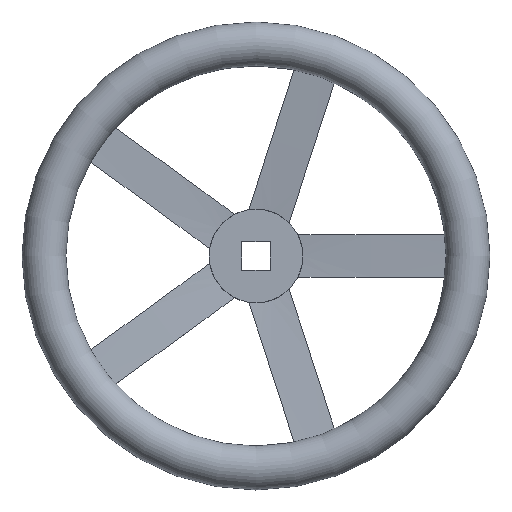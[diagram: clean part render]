
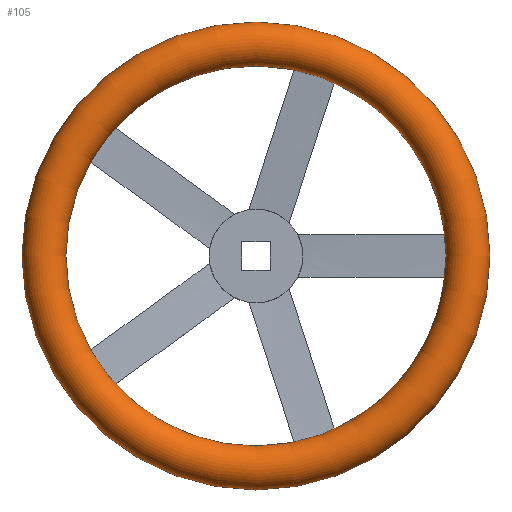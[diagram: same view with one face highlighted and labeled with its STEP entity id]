
A CAD part, top view. The second image highlights one B-rep face of the part: STEP entity #105.
In plain terms, the highlighted toroidal (fillet/blend) face has major radius 145 mm and minor radius 15 mm.
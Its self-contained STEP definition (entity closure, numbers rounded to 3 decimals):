
#105 = ADVANCED_FACE( '', ( #182, #183 ), #184, .T. );
#182 = FACE_OUTER_BOUND( '', #268, .T. );
#183 = FACE_OUTER_BOUND( '', #269, .T. );
#184 = TOROIDAL_SURFACE( '', #270, 145., 15. );
#268 = EDGE_LOOP( '', ( #535 ) );
#269 = EDGE_LOOP( '', ( #536 ) );
#270 = AXIS2_PLACEMENT_3D( '', #537, #538, #539 );
#535 = ORIENTED_EDGE( '', *, *, #642, .T. );
#536 = ORIENTED_EDGE( '', *, *, #641, .F. );
#537 = CARTESIAN_POINT( '', ( 0., 0., 35. ) );
#538 = DIRECTION( '', ( 0., 0., 1. ) );
#539 = DIRECTION( '', ( 1., 0., 0. ) );
#641 = EDGE_CURVE( '', #779, #779, #780, .T. );
#642 = EDGE_CURVE( '', #781, #781, #782, .T. );
#779 = VERTEX_POINT( '', #1134 );
#780 = CIRCLE( '', #1135, 130. );
#781 = VERTEX_POINT( '', #1136 );
#782 = CIRCLE( '', #1137, 160. );
#1134 = CARTESIAN_POINT( '', ( 130., 0., 35. ) );
#1135 = AXIS2_PLACEMENT_3D( '', #1263, #1264, #1265 );
#1136 = CARTESIAN_POINT( '', ( 160., 0., 35. ) );
#1137 = AXIS2_PLACEMENT_3D( '', #1266, #1267, #1268 );
#1263 = CARTESIAN_POINT( '', ( 0., 0., 35. ) );
#1264 = DIRECTION( '', ( 0., 0., 1. ) );
#1265 = DIRECTION( '', ( 1., 0., 0. ) );
#1266 = CARTESIAN_POINT( '', ( 0., 0., 35. ) );
#1267 = DIRECTION( '', ( 0., 0., 1. ) );
#1268 = DIRECTION( '', ( 1., 0., 0. ) );
